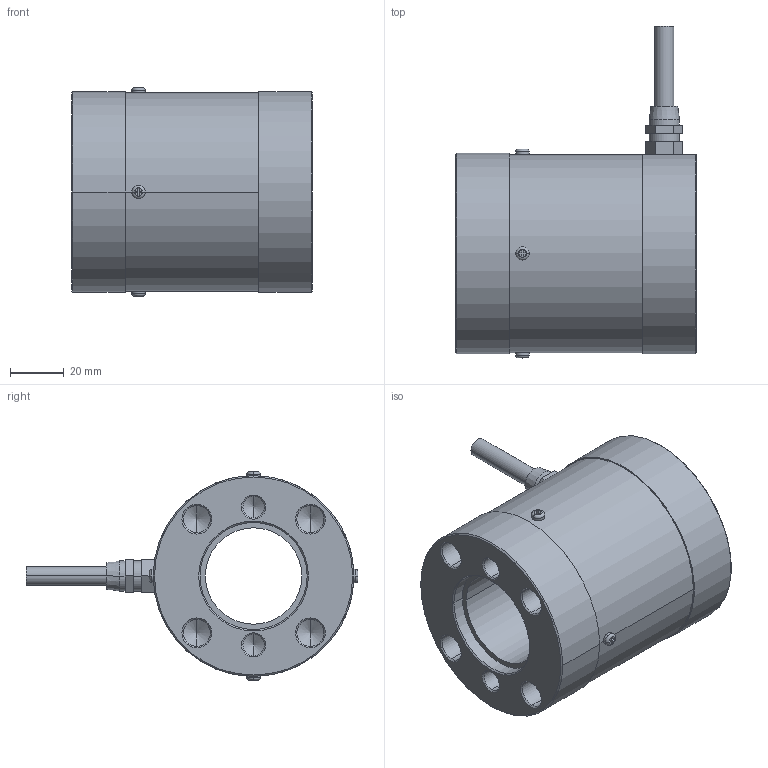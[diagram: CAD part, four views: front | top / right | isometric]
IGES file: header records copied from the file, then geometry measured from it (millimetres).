
Global section: file name: No Iges File Name specified; native system: AutoDesk Inventor R11.0; preprocessor: AutoDesk Inventor Iges Exporter R11.0; author: No Author specified; organization: No Organization specified; date: 20170224.083326; units: millimetre
Bounding box: 90 x 124 x 78 mm (x, y, z)
Volume: 287221.2 mm3; surface area: 45167.2 mm2
Topology: 3 solids, 3 shells, 210 faces, 517 edges, 309 vertices
Faces by surface type: plane 100, bspline 48, revolution 30, cylinder 19, torus 8, cone 5
